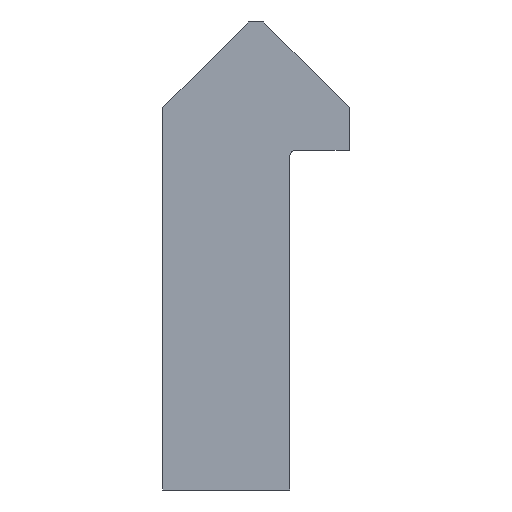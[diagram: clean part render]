
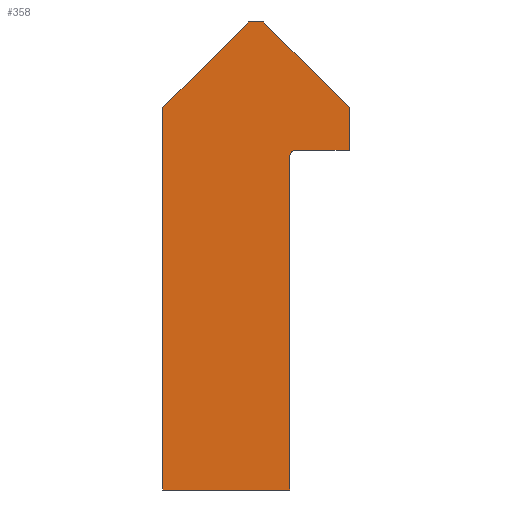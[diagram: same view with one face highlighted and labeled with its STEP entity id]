
A CAD part, left-side view. The second image highlights one B-rep face of the part: STEP entity #358.
In plain terms, the highlighted planar face has unit normal (-1, 0, 0).
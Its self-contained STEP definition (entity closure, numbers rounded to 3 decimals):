
#59=CARTESIAN_POINT('',(0.0,-8.71,15.87));
#60=VERTEX_POINT('',#59);
#67=CARTESIAN_POINT('',(0.0,-6.194,15.87));
#68=VERTEX_POINT('',#67);
#69=CARTESIAN_POINT('',(0.0,-6.194,15.87));
#70=DIRECTION('',(0.0,-1.0,0.0));
#71=VECTOR('',#70,2.516);
#72=LINE('',#69,#71);
#73=EDGE_CURVE('',#68,#60,#72,.T.);
#97=CARTESIAN_POINT('',(0.0,-8.71,17.88));
#98=VERTEX_POINT('',#97);
#105=CARTESIAN_POINT('',(0.0,-8.71,15.87));
#106=DIRECTION('',(0.0,0.0,1.0));
#107=VECTOR('',#106,2.01);
#108=LINE('',#105,#107);
#109=EDGE_CURVE('',#60,#98,#108,.T.);
#128=CARTESIAN_POINT('',(0.0,-4.724,21.866));
#129=VERTEX_POINT('',#128);
#136=CARTESIAN_POINT('',(0.0,-8.71,17.88));
#137=DIRECTION('',(0.0,0.707,0.707));
#138=VECTOR('',#137,5.638);
#139=LINE('',#136,#138);
#140=EDGE_CURVE('',#98,#129,#139,.T.);
#159=CARTESIAN_POINT('',(0.0,-4.016,21.866));
#160=VERTEX_POINT('',#159);
#167=CARTESIAN_POINT('',(0.0,-4.724,21.866));
#168=DIRECTION('',(0.0,1.0,0.0));
#169=VECTOR('',#168,0.707);
#170=LINE('',#167,#169);
#171=EDGE_CURVE('',#129,#160,#170,.T.);
#190=CARTESIAN_POINT('',(0.0,0.,17.85));
#191=VERTEX_POINT('',#190);
#198=CARTESIAN_POINT('',(0.0,-4.016,21.866));
#199=DIRECTION('',(0.0,0.707,-0.707));
#200=VECTOR('',#199,5.68);
#201=LINE('',#198,#200);
#202=EDGE_CURVE('',#160,#191,#201,.T.);
#221=CARTESIAN_POINT('',(0.0,0.0,0.0));
#222=VERTEX_POINT('',#221);
#229=CARTESIAN_POINT('',(0.0,0.,17.85));
#230=DIRECTION('',(0.0,0.0,-1.0));
#231=VECTOR('',#230,17.85);
#232=LINE('',#229,#231);
#233=EDGE_CURVE('',#191,#222,#232,.T.);
#252=CARTESIAN_POINT('',(0.0,-5.94,0.0));
#253=VERTEX_POINT('',#252);
#260=CARTESIAN_POINT('',(0.0,0.0,0.0));
#261=DIRECTION('',(0.0,-1.0,0.0));
#262=VECTOR('',#261,5.94);
#263=LINE('',#260,#262);
#264=EDGE_CURVE('',#222,#253,#263,.T.);
#283=CARTESIAN_POINT('',(0.0,-5.94,15.616));
#284=VERTEX_POINT('',#283);
#291=CARTESIAN_POINT('',(0.0,-5.94,0.0));
#292=DIRECTION('',(0.0,0.0,1.0));
#293=VECTOR('',#292,15.616);
#294=LINE('',#291,#293);
#295=EDGE_CURVE('',#253,#284,#294,.T.);
#314=CARTESIAN_POINT('',(0.0,-6.194,15.616));
#315=DIRECTION('',(1.0,0.0,0.0));
#316=DIRECTION('',(0.0,1.0,0.0));
#317=AXIS2_PLACEMENT_3D('',#314,#315,#316);
#318=CIRCLE('',#317,0.254);
#319=EDGE_CURVE('',#284,#68,#318,.T.);
#342=CARTESIAN_POINT('',(0.0,-3.574,10.676));
#343=DIRECTION('',(1.0,0.0,0.0));
#344=DIRECTION('',(0.0,0.0,-1.0));
#345=AXIS2_PLACEMENT_3D('',#342,#343,#344);
#346=PLANE('',#345);
#347=ORIENTED_EDGE('',*,*,#319,.T.);
#348=ORIENTED_EDGE('',*,*,#73,.T.);
#349=ORIENTED_EDGE('',*,*,#109,.T.);
#350=ORIENTED_EDGE('',*,*,#140,.T.);
#351=ORIENTED_EDGE('',*,*,#171,.T.);
#352=ORIENTED_EDGE('',*,*,#202,.T.);
#353=ORIENTED_EDGE('',*,*,#233,.T.);
#354=ORIENTED_EDGE('',*,*,#264,.T.);
#355=ORIENTED_EDGE('',*,*,#295,.T.);
#356=EDGE_LOOP('',(#347,#348,#349,#350,#351,#352,#353,#354,#355));
#357=FACE_OUTER_BOUND('',#356,.T.);
#358=ADVANCED_FACE('',(#357),#346,.F.);
